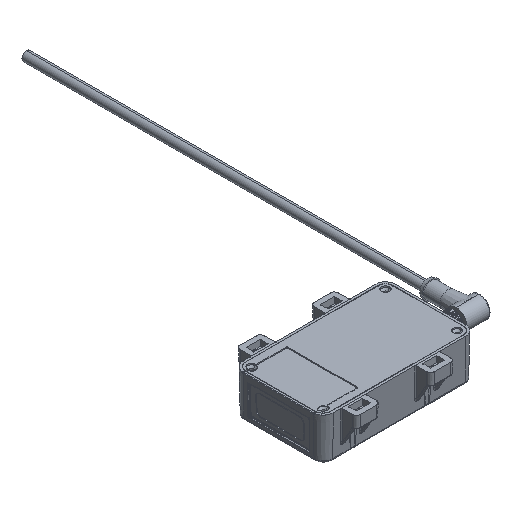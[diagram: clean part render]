
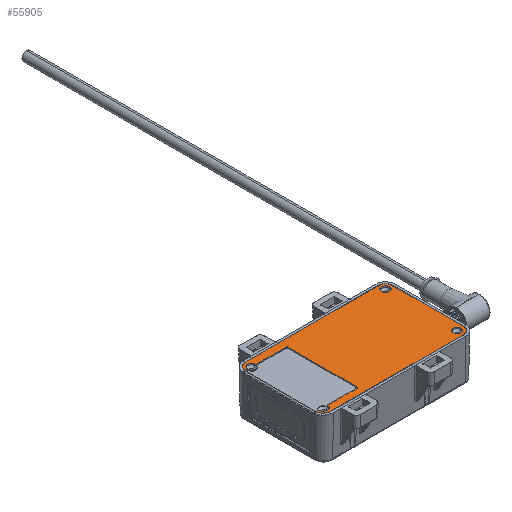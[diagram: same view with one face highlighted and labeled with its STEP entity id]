
A CAD part, isometric view. The second image highlights one B-rep face of the part: STEP entity #55905.
In plain terms, the highlighted planar face has unit normal (0, 0, 1).
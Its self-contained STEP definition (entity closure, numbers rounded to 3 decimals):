
#54010=CARTESIAN_POINT('',(-52.399,38.55,11.5));
#54011=DIRECTION('',(0.,0.,-1.));
#54012=DIRECTION('',(1.,-0.022,0.));
#54013=AXIS2_PLACEMENT_3D('',#54010,#54011,#54012);
#54015=DIRECTION('',(-1.,0.,0.));
#54016=VECTOR('',#54015,0.997);
#54017=CARTESIAN_POINT('',(-52.399,38.25,11.5));
#54018=LINE('',#54017,#54016);
#54019=CARTESIAN_POINT('',(-49.7,38.1,11.5));
#54020=DIRECTION('',(0.,0.,-1.));
#54021=DIRECTION('',(-0.999,0.041,0.));
#54022=AXIS2_PLACEMENT_3D('',#54019,#54020,#54021);
#54024=DIRECTION('',(1.,0.,0.));
#54025=VECTOR('',#54024,66.);
#54026=CARTESIAN_POINT('',(-49.7,41.8,11.5));
#54027=LINE('',#54026,#54025);
#54028=CARTESIAN_POINT('',(16.3,38.1,11.5));
#54029=DIRECTION('',(0.,0.,-1.));
#54030=DIRECTION('',(0.,1.,0.));
#54031=AXIS2_PLACEMENT_3D('',#54028,#54029,#54030);
#54033=DIRECTION('',(0.,-1.,0.));
#54034=VECTOR('',#54033,35.);
#54035=CARTESIAN_POINT('',(20.,38.1,11.5));
#54036=LINE('',#54035,#54034);
#54037=CARTESIAN_POINT('',(16.3,3.1,11.5));
#54038=DIRECTION('',(0.,0.,-1.));
#54039=DIRECTION('',(1.,0.,0.));
#54040=AXIS2_PLACEMENT_3D('',#54037,#54038,#54039);
#54042=DIRECTION('',(-1.,0.,0.));
#54043=VECTOR('',#54042,66.);
#54044=CARTESIAN_POINT('',(16.3,-0.6,11.5));
#54045=LINE('',#54044,#54043);
#54046=CARTESIAN_POINT('',(-49.7,3.1,11.5));
#54047=DIRECTION('',(0.,0.,-1.));
#54048=DIRECTION('',(0.,-1.,0.));
#54049=AXIS2_PLACEMENT_3D('',#54046,#54047,#54048);
#54051=CARTESIAN_POINT('',(-52.399,2.65,11.5));
#54052=DIRECTION('',(0.,0.,-1.));
#54053=DIRECTION('',(0.,1.,0.));
#54054=AXIS2_PLACEMENT_3D('',#54051,#54052,#54053);
#54056=CARTESIAN_POINT('',(-50.1,2.7,11.5));
#54057=DIRECTION('',(0.,0.,1.));
#54058=DIRECTION('',(-1.,-0.022,0.));
#54059=AXIS2_PLACEMENT_3D('',#54056,#54057,#54058);
#54061=CARTESIAN_POINT('',(-47.801,2.65,11.5));
#54062=DIRECTION('',(0.,0.,-1.));
#54063=DIRECTION('',(-1.,0.022,0.));
#54064=AXIS2_PLACEMENT_3D('',#54061,#54062,#54063);
#54066=CARTESIAN_POINT('',(-32.991,3.25,11.5));
#54067=DIRECTION('',(0.,0.,1.));
#54068=DIRECTION('',(0.,-1.,0.));
#54069=AXIS2_PLACEMENT_3D('',#54066,#54067,#54068);
#54071=CARTESIAN_POINT('',(-32.991,37.95,11.5));
#54072=DIRECTION('',(0.,0.,1.));
#54073=DIRECTION('',(1.,0.,0.));
#54074=AXIS2_PLACEMENT_3D('',#54071,#54072,#54073);
#54076=DIRECTION('',(-1.,0.,0.));
#54077=VECTOR('',#54076,14.809);
#54078=CARTESIAN_POINT('',(-32.991,38.25,11.5));
#54079=LINE('',#54078,#54077);
#54080=CARTESIAN_POINT('',(-47.801,38.55,11.5));
#54081=DIRECTION('',(0.,0.,-1.));
#54082=DIRECTION('',(0.,-1.,0.));
#54083=AXIS2_PLACEMENT_3D('',#54080,#54081,#54082);
#54085=CARTESIAN_POINT('',(-50.1,38.5,11.5));
#54086=DIRECTION('',(0.,0.,1.));
#54087=DIRECTION('',(1.,0.022,0.));
#54088=AXIS2_PLACEMENT_3D('',#54085,#54086,#54087);
#54090=CARTESIAN_POINT('',(16.7,2.7,11.5));
#54091=DIRECTION('',(0.,0.,1.));
#54092=DIRECTION('',(1.,0.,0.));
#54093=AXIS2_PLACEMENT_3D('',#54090,#54091,#54092);
#54095=CARTESIAN_POINT('',(16.7,2.7,11.5));
#54096=DIRECTION('',(0.,0.,1.));
#54097=DIRECTION('',(-1.,0.,0.));
#54098=AXIS2_PLACEMENT_3D('',#54095,#54096,#54097);
#54100=CARTESIAN_POINT('',(16.7,38.5,11.5));
#54101=DIRECTION('',(0.,0.,1.));
#54102=DIRECTION('',(1.,0.,0.));
#54103=AXIS2_PLACEMENT_3D('',#54100,#54101,#54102);
#54105=CARTESIAN_POINT('',(16.7,38.5,11.5));
#54106=DIRECTION('',(0.,0.,1.));
#54107=DIRECTION('',(-1.,0.,0.));
#54108=AXIS2_PLACEMENT_3D('',#54105,#54106,#54107);
#54198=DIRECTION('',(-1.,0.,0.));
#54199=VECTOR('',#54198,14.809);
#54200=CARTESIAN_POINT('',(-32.991,2.95,11.5));
#54201=LINE('',#54200,#54199);
#54242=DIRECTION('',(-1.,0.,
0.));
#54243=VECTOR('',#54242,0.997);
#54244=CARTESIAN_POINT('',(-52.399,2.95,11.5));
#54245=LINE('',#54244,#54243);
#55002=DIRECTION('',(0.,-1.,0.));
#55003=VECTOR('',#55002,34.7);
#55004=CARTESIAN_POINT('',(-32.691,37.95,11.5));
#55005=LINE('',#55004,#55003);
#55454=CARTESIAN_POINT('',(-52.1,38.543,11.5));
#55455=CARTESIAN_POINT('',(-52.399,38.25,11.5));
#55456=VERTEX_POINT('',#55454);
#55457=VERTEX_POINT('',#55455);
#55458=CARTESIAN_POINT('',(-53.397,38.25,11.5));
#55459=VERTEX_POINT('',#55458);
#55460=CARTESIAN_POINT('',(-49.7,41.8,11.5));
#55461=VERTEX_POINT('',#55460);
#55462=CARTESIAN_POINT('',(16.3,41.8,11.5));
#55463=VERTEX_POINT('',#55462);
#55464=CARTESIAN_POINT('',(20.,38.1,11.5));
#55465=VERTEX_POINT('',#55464);
#55466=CARTESIAN_POINT('',(20.,3.1,11.5));
#55467=VERTEX_POINT('',#55466);
#55468=CARTESIAN_POINT('',(16.3,-0.6,11.5));
#55469=VERTEX_POINT('',#55468);
#55470=CARTESIAN_POINT('',(-49.7,-0.6,11.5));
#55471=VERTEX_POINT('',#55470);
#55472=CARTESIAN_POINT('',(-53.397,2.95,11.5));
#55473=VERTEX_POINT('',#55472);
#55474=CARTESIAN_POINT('',(-52.399,2.95,11.5));
#55475=VERTEX_POINT('',#55474);
#55476=CARTESIAN_POINT('',(-52.1,2.657,11.5));
#55477=VERTEX_POINT('',#55476);
#55478=CARTESIAN_POINT('',(-48.1,2.657,11.5));
#55479=VERTEX_POINT('',#55478);
#55480=CARTESIAN_POINT('',(-47.801,2.95,11.5));
#55481=VERTEX_POINT('',#55480);
#55482=CARTESIAN_POINT('',(-32.991,2.95,11.5));
#55483=VERTEX_POINT('',#55482);
#55484=CARTESIAN_POINT('',(-32.691,3.25,11.5));
#55485=VERTEX_POINT('',#55484);
#55486=CARTESIAN_POINT('',(-32.691,37.95,11.5));
#55487=VERTEX_POINT('',#55486);
#55488=CARTESIAN_POINT('',(-32.991,38.25,11.5));
#55489=VERTEX_POINT('',#55488);
#55490=CARTESIAN_POINT('',(-47.801,38.25,11.5));
#55491=VERTEX_POINT('',#55490);
#55492=CARTESIAN_POINT('',(-48.1,38.543,11.5));
#55493=VERTEX_POINT('',#55492);
#55494=CARTESIAN_POINT('',(18.7,2.7,11.5));
#55495=CARTESIAN_POINT('',(14.7,2.7,11.5));
#55496=VERTEX_POINT('',#55494);
#55497=VERTEX_POINT('',#55495);
#55498=CARTESIAN_POINT('',(18.7,38.5,11.5));
#55499=CARTESIAN_POINT('',(14.7,38.5,11.5));
#55500=VERTEX_POINT('',#55498);
#55501=VERTEX_POINT('',#55499);
#55846=CARTESIAN_POINT('',(0.,-1.9,11.5));
#55847=DIRECTION('',(0.,0.,1.));
#55848=DIRECTION('',(1.,0.,0.));
#55849=AXIS2_PLACEMENT_3D('',#55846,#55847,#55848);
#55850=PLANE('',#55849);
#55852=ORIENTED_EDGE('',*,*,#55851,.T.);
#55854=ORIENTED_EDGE('',*,*,#55853,.T.);
#55856=ORIENTED_EDGE('',*,*,#55855,.T.);
#55858=ORIENTED_EDGE('',*,*,#55857,.T.);
#55860=ORIENTED_EDGE('',*,*,#55859,.T.);
#55862=ORIENTED_EDGE('',*,*,#55861,.T.);
#55864=ORIENTED_EDGE('',*,*,#55863,.T.);
#55866=ORIENTED_EDGE('',*,*,#55865,.T.);
#55868=ORIENTED_EDGE('',*,*,#55867,.T.);
#55870=ORIENTED_EDGE('',*,*,#55869,.F.);
#55872=ORIENTED_EDGE('',*,*,#55871,.T.);
#55874=ORIENTED_EDGE('',*,*,#55873,.T.);
#55876=ORIENTED_EDGE('',*,*,#55875,.T.);
#55878=ORIENTED_EDGE('',*,*,#55877,.F.);
#55880=ORIENTED_EDGE('',*,*,#55879,.T.);
#55882=ORIENTED_EDGE('',*,*,#55881,.F.);
#55884=ORIENTED_EDGE('',*,*,#55883,.T.);
#55886=ORIENTED_EDGE('',*,*,#55885,.T.);
#55888=ORIENTED_EDGE('',*,*,#55887,.T.);
#55890=ORIENTED_EDGE('',*,*,#55889,.T.);
#55891=EDGE_LOOP('',(#55852,#55854,#55856,#55858,#55860,#55862,#55864,#55866,
#55868,#55870,#55872,#55874,#55876,#55878,#55880,#55882,#55884,#55886,#55888,
#55890));
#55892=FACE_OUTER_BOUND('',#55891,.F.);
#55894=ORIENTED_EDGE('',*,*,#55893,.T.);
#55896=ORIENTED_EDGE('',*,*,#55895,.T.);
#55897=EDGE_LOOP('',(#55894,#55896));
#55898=FACE_BOUND('',#55897,.F.);
#55900=ORIENTED_EDGE('',*,*,#55899,.T.);
#55902=ORIENTED_EDGE('',*,*,#55901,.T.);
#55903=EDGE_LOOP('',(#55900,#55902));
#55904=FACE_BOUND('',#55903,.F.);
#54014=CIRCLE('',#54013,0.3);
#54023=CIRCLE('',#54022,3.7);
#54032=CIRCLE('',#54031,3.7);
#54041=CIRCLE('',#54040,3.7);
#54050=CIRCLE('',#54049,3.7);
#54055=CIRCLE('',#54054,0.3);
#54060=CIRCLE('',#54059,2.);
#54065=CIRCLE('',#54064,0.3);
#54070=CIRCLE('',#54069,0.3);
#54075=CIRCLE('',#54074,0.3);
#54084=CIRCLE('',#54083,0.3);
#54089=CIRCLE('',#54088,2.);
#54094=CIRCLE('',#54093,2.);
#54099=CIRCLE('',#54098,2.);
#54104=CIRCLE('',#54103,2.);
#54109=CIRCLE('',#54108,2.);
#55851=EDGE_CURVE('',#55456,#55457,#54014,.T.);
#55853=EDGE_CURVE('',#55457,#55459,#54018,.T.);
#55855=EDGE_CURVE('',#55459,#55461,#54023,.T.);
#55857=EDGE_CURVE('',#55461,#55463,#54027,.T.);
#55859=EDGE_CURVE('',#55463,#55465,#54032,.T.);
#55861=EDGE_CURVE('',#55465,#55467,#54036,.T.);
#55863=EDGE_CURVE('',#55467,#55469,#54041,.T.);
#55865=EDGE_CURVE('',#55469,#55471,#54045,.T.);
#55867=EDGE_CURVE('',#55471,#55473,#54050,.T.);
#55869=EDGE_CURVE('',#55475,#55473,#54245,.T.);
#55871=EDGE_CURVE('',#55475,#55477,#54055,.T.);
#55873=EDGE_CURVE('',#55477,#55479,#54060,.T.);
#55875=EDGE_CURVE('',#55479,#55481,#54065,.T.);
#55877=EDGE_CURVE('',#55483,#55481,#54201,.T.);
#55879=EDGE_CURVE('',#55483,#55485,#54070,.T.);
#55881=EDGE_CURVE('',#55487,#55485,#55005,.T.);
#55883=EDGE_CURVE('',#55487,#55489,#54075,.T.);
#55885=EDGE_CURVE('',#55489,#55491,#54079,.T.);
#55887=EDGE_CURVE('',#55491,#55493,#54084,.T.);
#55889=EDGE_CURVE('',#55493,#55456,#54089,.T.);
#55893=EDGE_CURVE('',#55496,#55497,#54094,.T.);
#55895=EDGE_CURVE('',#55497,#55496,#54099,.T.);
#55899=EDGE_CURVE('',#55500,#55501,#54104,.T.);
#55901=EDGE_CURVE('',#55501,#55500,#54109,.T.);
#55905=ADVANCED_FACE('',(#55892,#55898,#55904),#55850,.T.);
